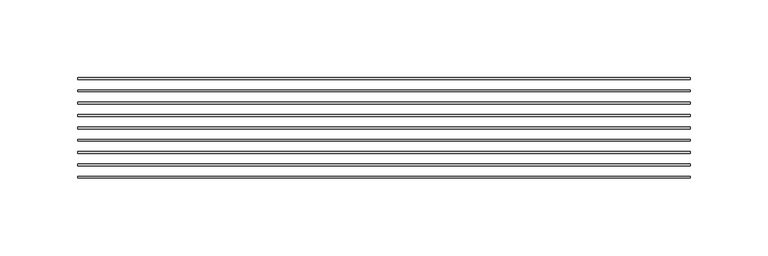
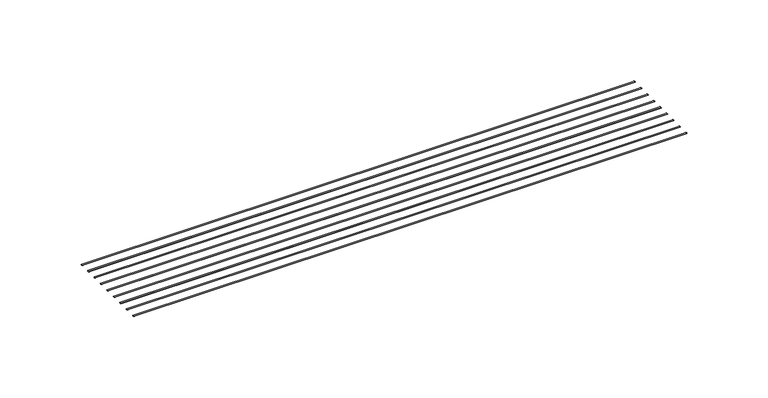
"""IFC4 building model written with IfcOpenShell, lengths in millimetres: proxy geometry, CRAi Generic Model Mesh Piece Face Based : CRAi Generic Model Mesh Piece Face Based."""

from ifc_helpers import new_model, si_unit, point, frame, origin, place, context, project, spatial, ellipse_curve, trimmed, source, transform, mapped, element, save
from ifc_brep_helpers import plane_surface, extruded_surface, advanced_brep


def generic_models_ae2a9f48(model_context):
    return source(origin(), model_context, "Body", "AdvancedBrep", [
        advanced_brep(
        [(-196.85, 87.4480485, -2.9765625), (-196.85, 88.6386735, -2.9765625), (196.85, 87.4480485, -2.9765625), (196.85, 88.6386735, -2.9765625)],
        [
            (0, 1, ellipse_curve(frame((-196.85, 88.043361, -2.9765625), z_axis=(-1.0, 0.0, 0.0), x_axis=(0.0, 1.0, 0.0)), 0.5953125, 0.1984375)),
            (1, 0, ellipse_curve(frame((-196.85, 88.043361, -2.9765625), z_axis=(-1.0, 0.0, 0.0), x_axis=(0.0, 1.0, 0.0)), 0.5953125, 0.1984375)),
            (2, 3, ellipse_curve(frame((196.85, 88.043361, -2.9765625), z_axis=(1.0, 0.0, 0.0), x_axis=(0.0, 1.0, 0.0)), 0.5953125, 0.1984375)),
            (3, 2, ellipse_curve(frame((196.85, 88.043361, -2.9765625), z_axis=(1.0, 0.0, 0.0), x_axis=(0.0, 1.0, 0.0)), 0.5953125, 0.1984375)),
            (1, 3),
            (2, 0),
        ],
        [
            plane_surface(frame((-196.85, 88.043361, -2.9765625), z_axis=(-1.0, 0.0, 0.0), x_axis=(0.0, 0.0, 1.0))),
            plane_surface(frame((196.85, 88.043361, -2.9765625), z_axis=(1.0, 0.0, 0.0), x_axis=(0.0, 0.0, 1.0))),
            extruded_surface(trimmed(ellipse_curve(frame((-196.85, 88.043361, -2.9765625), z_axis=(1.0, 0.0, 0.0), x_axis=(0.0, 1.0, 0.0)), 0.5953125, 0.1984375), [point((-196.85, 87.4480485, -2.9765625))], [point((-196.85, 88.6386735, -2.9765625))], True, "CARTESIAN"), (393.7, 0.0, 0.0), 393.7),
            extruded_surface(trimmed(ellipse_curve(frame((-196.85, 88.043361, -2.9765625), z_axis=(1.0, 0.0, 0.0), x_axis=(0.0, 1.0, 0.0)), 0.5953125, 0.1984375), [point((-196.85, 88.6386735, -2.9765625))], [point((-196.85, 87.4480485, -2.9765625))], True, "CARTESIAN"), (393.7, 0.0, 0.0), 393.7),
        ],
        [
            (0, [[1, 2]]),
            (1, [[3, 4]]),
            (2, [[5, -3, 6, -2]]),
            (3, [[-6, -4, -5, -1]]),
        ],
    ),
        advanced_brep(
        [(-196.85, 95.3855485, -2.9765625), (-196.85, 96.5761735, -2.9765625), (196.85, 95.3855485, -2.9765625), (196.85, 96.5761735, -2.9765625)],
        [
            (0, 1, ellipse_curve(frame((-196.85, 95.980861, -2.9765625), z_axis=(-1.0, 0.0, 0.0), x_axis=(0.0, 1.0, 0.0)), 0.5953125, 0.1984375)),
            (1, 0, ellipse_curve(frame((-196.85, 95.980861, -2.9765625), z_axis=(-1.0, 0.0, 0.0), x_axis=(0.0, 1.0, 0.0)), 0.5953125, 0.1984375)),
            (2, 3, ellipse_curve(frame((196.85, 95.980861, -2.9765625), z_axis=(1.0, 0.0, 0.0), x_axis=(0.0, 1.0, 0.0)), 0.5953125, 0.1984375)),
            (3, 2, ellipse_curve(frame((196.85, 95.980861, -2.9765625), z_axis=(1.0, 0.0, 0.0), x_axis=(0.0, 1.0, 0.0)), 0.5953125, 0.1984375)),
            (1, 3),
            (2, 0),
        ],
        [
            plane_surface(frame((-196.85, 95.980861, -2.9765625), z_axis=(-1.0, 0.0, 0.0), x_axis=(0.0, 0.0, 1.0))),
            plane_surface(frame((196.85, 95.980861, -2.9765625), z_axis=(1.0, 0.0, 0.0), x_axis=(0.0, 0.0, 1.0))),
            extruded_surface(trimmed(ellipse_curve(frame((-196.85, 95.980861, -2.9765625), z_axis=(1.0, 0.0, 0.0), x_axis=(0.0, 1.0, 0.0)), 0.5953125, 0.1984375), [point((-196.85, 95.3855485, -2.9765625))], [point((-196.85, 96.5761735, -2.9765625))], True, "CARTESIAN"), (393.7, 0.0, 0.0), 393.7),
            extruded_surface(trimmed(ellipse_curve(frame((-196.85, 95.980861, -2.9765625), z_axis=(1.0, 0.0, 0.0), x_axis=(0.0, 1.0, 0.0)), 0.5953125, 0.1984375), [point((-196.85, 96.5761735, -2.9765625))], [point((-196.85, 95.3855485, -2.9765625))], True, "CARTESIAN"), (393.7, 0.0, 0.0), 393.7),
        ],
        [
            (0, [[1, 2]]),
            (1, [[3, 4]]),
            (2, [[5, -3, 6, -2]]),
            (3, [[-6, -4, -5, -1]]),
        ],
    ),
        advanced_brep(
        [(-196.85, 103.3230485, -2.9765625), (-196.85, 104.5136735, -2.9765625), (196.85, 103.3230485, -2.9765625), (196.85, 104.5136735, -2.9765625)],
        [
            (0, 1, ellipse_curve(frame((-196.85, 103.918361, -2.9765625), z_axis=(-1.0, 0.0, 0.0), x_axis=(0.0, 1.0, 0.0)), 0.5953125, 0.1984375)),
            (1, 0, ellipse_curve(frame((-196.85, 103.918361, -2.9765625), z_axis=(-1.0, 0.0, 0.0), x_axis=(0.0, 1.0, 0.0)), 0.5953125, 0.1984375)),
            (2, 3, ellipse_curve(frame((196.85, 103.918361, -2.9765625), z_axis=(1.0, 0.0, 0.0), x_axis=(0.0, 1.0, 0.0)), 0.5953125, 0.1984375)),
            (3, 2, ellipse_curve(frame((196.85, 103.918361, -2.9765625), z_axis=(1.0, 0.0, 0.0), x_axis=(0.0, 1.0, 0.0)), 0.5953125, 0.1984375)),
            (1, 3),
            (2, 0),
        ],
        [
            plane_surface(frame((-196.85, 103.918361, -2.9765625), z_axis=(-1.0, 0.0, 0.0), x_axis=(0.0, 0.0, 1.0))),
            plane_surface(frame((196.85, 103.918361, -2.9765625), z_axis=(1.0, 0.0, 0.0), x_axis=(0.0, 0.0, 1.0))),
            extruded_surface(trimmed(ellipse_curve(frame((-196.85, 103.918361, -2.9765625), z_axis=(1.0, 0.0, 0.0), x_axis=(0.0, 1.0, 0.0)), 0.5953125, 0.1984375), [point((-196.85, 103.3230485, -2.9765625))], [point((-196.85, 104.5136735, -2.9765625))], True, "CARTESIAN"), (393.7, 0.0, 0.0), 393.7),
            extruded_surface(trimmed(ellipse_curve(frame((-196.85, 103.918361, -2.9765625), z_axis=(1.0, 0.0, 0.0), x_axis=(0.0, 1.0, 0.0)), 0.5953125, 0.1984375), [point((-196.85, 104.5136735, -2.9765625))], [point((-196.85, 103.3230485, -2.9765625))], True, "CARTESIAN"), (393.7, 0.0, 0.0), 393.7),
        ],
        [
            (0, [[1, 2]]),
            (1, [[3, 4]]),
            (2, [[5, -3, 6, -2]]),
            (3, [[-6, -4, -5, -1]]),
        ],
    ),
        advanced_brep(
        [(-196.85, 111.2605485, -2.9765625), (-196.85, 112.4511735, -2.9765625), (196.85, 111.2605485, -2.9765625), (196.85, 112.4511735, -2.9765625)],
        [
            (0, 1, ellipse_curve(frame((-196.85, 111.855861, -2.9765625), z_axis=(-1.0, 0.0, 0.0), x_axis=(0.0, 1.0, 0.0)), 0.5953125, 0.1984375)),
            (1, 0, ellipse_curve(frame((-196.85, 111.855861, -2.9765625), z_axis=(-1.0, 0.0, 0.0), x_axis=(0.0, 1.0, 0.0)), 0.5953125, 0.1984375)),
            (2, 3, ellipse_curve(frame((196.85, 111.855861, -2.9765625), z_axis=(1.0, 0.0, 0.0), x_axis=(0.0, 1.0, 0.0)), 0.5953125, 0.1984375)),
            (3, 2, ellipse_curve(frame((196.85, 111.855861, -2.9765625), z_axis=(1.0, 0.0, 0.0), x_axis=(0.0, 1.0, 0.0)), 0.5953125, 0.1984375)),
            (1, 3),
            (2, 0),
        ],
        [
            plane_surface(frame((-196.85, 111.855861, -2.9765625), z_axis=(-1.0, 0.0, 0.0), x_axis=(0.0, 0.0, 1.0))),
            plane_surface(frame((196.85, 111.855861, -2.9765625), z_axis=(1.0, 0.0, 0.0), x_axis=(0.0, 0.0, 1.0))),
            extruded_surface(trimmed(ellipse_curve(frame((-196.85, 111.855861, -2.9765625), z_axis=(1.0, 0.0, 0.0), x_axis=(0.0, 1.0, 0.0)), 0.5953125, 0.1984375), [point((-196.85, 111.2605485, -2.9765625))], [point((-196.85, 112.4511735, -2.9765625))], True, "CARTESIAN"), (393.7, 0.0, 0.0), 393.7),
            extruded_surface(trimmed(ellipse_curve(frame((-196.85, 111.855861, -2.9765625), z_axis=(1.0, 0.0, 0.0), x_axis=(0.0, 1.0, 0.0)), 0.5953125, 0.1984375), [point((-196.85, 112.4511735, -2.9765625))], [point((-196.85, 111.2605485, -2.9765625))], True, "CARTESIAN"), (393.7, 0.0, 0.0), 393.7),
        ],
        [
            (0, [[1, 2]]),
            (1, [[3, 4]]),
            (2, [[5, -3, 6, -2]]),
            (3, [[-6, -4, -5, -1]]),
        ],
    ),
        advanced_brep(
        [(-196.85, 119.1980485, -2.9765625), (-196.85, 120.3886735, -2.9765625), (196.85, 119.1980485, -2.9765625), (196.85, 120.3886735, -2.9765625)],
        [
            (0, 1, ellipse_curve(frame((-196.85, 119.793361, -2.9765625), z_axis=(-1.0, 0.0, 0.0), x_axis=(0.0, 1.0, 0.0)), 0.5953125, 0.1984375)),
            (1, 0, ellipse_curve(frame((-196.85, 119.793361, -2.9765625), z_axis=(-1.0, 0.0, 0.0), x_axis=(0.0, 1.0, 0.0)), 0.5953125, 0.1984375)),
            (2, 3, ellipse_curve(frame((196.85, 119.793361, -2.9765625), z_axis=(1.0, 0.0, 0.0), x_axis=(0.0, 1.0, 0.0)), 0.5953125, 0.1984375)),
            (3, 2, ellipse_curve(frame((196.85, 119.793361, -2.9765625), z_axis=(1.0, 0.0, 0.0), x_axis=(0.0, 1.0, 0.0)), 0.5953125, 0.1984375)),
            (1, 3),
            (2, 0),
        ],
        [
            plane_surface(frame((-196.85, 119.793361, -2.9765625), z_axis=(-1.0, 0.0, 0.0), x_axis=(0.0, 0.0, 1.0))),
            plane_surface(frame((196.85, 119.793361, -2.9765625), z_axis=(1.0, 0.0, 0.0), x_axis=(0.0, 0.0, 1.0))),
            extruded_surface(trimmed(ellipse_curve(frame((-196.85, 119.793361, -2.9765625), z_axis=(1.0, 0.0, 0.0), x_axis=(0.0, 1.0, 0.0)), 0.5953125, 0.1984375), [point((-196.85, 119.1980485, -2.9765625))], [point((-196.85, 120.3886735, -2.9765625))], True, "CARTESIAN"), (393.7, 0.0, 0.0), 393.7),
            extruded_surface(trimmed(ellipse_curve(frame((-196.85, 119.793361, -2.9765625), z_axis=(1.0, 0.0, 0.0), x_axis=(0.0, 1.0, 0.0)), 0.5953125, 0.1984375), [point((-196.85, 120.3886735, -2.9765625))], [point((-196.85, 119.1980485, -2.9765625))], True, "CARTESIAN"), (393.7, 0.0, 0.0), 393.7),
        ],
        [
            (0, [[1, 2]]),
            (1, [[3, 4]]),
            (2, [[5, -3, 6, -2]]),
            (3, [[-6, -4, -5, -1]]),
        ],
    ),
        advanced_brep(
        [(-196.85, 127.1355485, -2.9765625), (-196.85, 128.3261735, -2.9765625), (196.85, 127.1355485, -2.9765625), (196.85, 128.3261735, -2.9765625)],
        [
            (0, 1, ellipse_curve(frame((-196.85, 127.730861, -2.9765625), z_axis=(-1.0, 0.0, 0.0), x_axis=(0.0, 1.0, 0.0)), 0.5953125, 0.1984375)),
            (1, 0, ellipse_curve(frame((-196.85, 127.730861, -2.9765625), z_axis=(-1.0, 0.0, 0.0), x_axis=(0.0, 1.0, 0.0)), 0.5953125, 0.1984375)),
            (2, 3, ellipse_curve(frame((196.85, 127.730861, -2.9765625), z_axis=(1.0, 0.0, 0.0), x_axis=(0.0, 1.0, 0.0)), 0.5953125, 0.1984375)),
            (3, 2, ellipse_curve(frame((196.85, 127.730861, -2.9765625), z_axis=(1.0, 0.0, 0.0), x_axis=(0.0, 1.0, 0.0)), 0.5953125, 0.1984375)),
            (1, 3),
            (2, 0),
        ],
        [
            plane_surface(frame((-196.85, 127.730861, -2.9765625), z_axis=(-1.0, 0.0, 0.0), x_axis=(0.0, 0.0, 1.0))),
            plane_surface(frame((196.85, 127.730861, -2.9765625), z_axis=(1.0, 0.0, 0.0), x_axis=(0.0, 0.0, 1.0))),
            extruded_surface(trimmed(ellipse_curve(frame((-196.85, 127.730861, -2.9765625), z_axis=(1.0, 0.0, 0.0), x_axis=(0.0, 1.0, 0.0)), 0.5953125, 0.1984375), [point((-196.85, 127.1355485, -2.9765625))], [point((-196.85, 128.3261735, -2.9765625))], True, "CARTESIAN"), (393.7, 0.0, 0.0), 393.7),
            extruded_surface(trimmed(ellipse_curve(frame((-196.85, 127.730861, -2.9765625), z_axis=(1.0, 0.0, 0.0), x_axis=(0.0, 1.0, 0.0)), 0.5953125, 0.1984375), [point((-196.85, 128.3261735, -2.9765625))], [point((-196.85, 127.1355485, -2.9765625))], True, "CARTESIAN"), (393.7, 0.0, 0.0), 393.7),
        ],
        [
            (0, [[1, 2]]),
            (1, [[3, 4]]),
            (2, [[5, -3, 6, -2]]),
            (3, [[-6, -4, -5, -1]]),
        ],
    ),
        advanced_brep(
        [(-196.85, 135.0730485, -2.9765625), (-196.85, 136.2636735, -2.9765625), (196.85, 135.0730485, -2.9765625), (196.85, 136.2636735, -2.9765625)],
        [
            (0, 1, ellipse_curve(frame((-196.85, 135.668361, -2.9765625), z_axis=(-1.0, 0.0, 0.0), x_axis=(0.0, 1.0, 0.0)), 0.5953125, 0.1984375)),
            (1, 0, ellipse_curve(frame((-196.85, 135.668361, -2.9765625), z_axis=(-1.0, 0.0, 0.0), x_axis=(0.0, 1.0, 0.0)), 0.5953125, 0.1984375)),
            (2, 3, ellipse_curve(frame((196.85, 135.668361, -2.9765625), z_axis=(1.0, 0.0, 0.0), x_axis=(0.0, 1.0, 0.0)), 0.5953125, 0.1984375)),
            (3, 2, ellipse_curve(frame((196.85, 135.668361, -2.9765625), z_axis=(1.0, 0.0, 0.0), x_axis=(0.0, 1.0, 0.0)), 0.5953125, 0.1984375)),
            (1, 3),
            (2, 0),
        ],
        [
            plane_surface(frame((-196.85, 135.668361, -2.9765625), z_axis=(-1.0, 0.0, 0.0), x_axis=(0.0, 0.0, 1.0))),
            plane_surface(frame((196.85, 135.668361, -2.9765625), z_axis=(1.0, 0.0, 0.0), x_axis=(0.0, 0.0, 1.0))),
            extruded_surface(trimmed(ellipse_curve(frame((-196.85, 135.668361, -2.9765625), z_axis=(1.0, 0.0, 0.0), x_axis=(0.0, 1.0, 0.0)), 0.5953125, 0.1984375), [point((-196.85, 135.0730485, -2.9765625))], [point((-196.85, 136.2636735, -2.9765625))], True, "CARTESIAN"), (393.7, 0.0, 0.0), 393.7),
            extruded_surface(trimmed(ellipse_curve(frame((-196.85, 135.668361, -2.9765625), z_axis=(1.0, 0.0, 0.0), x_axis=(0.0, 1.0, 0.0)), 0.5953125, 0.1984375), [point((-196.85, 136.2636735, -2.9765625))], [point((-196.85, 135.0730485, -2.9765625))], True, "CARTESIAN"), (393.7, 0.0, 0.0), 393.7),
        ],
        [
            (0, [[1, 2]]),
            (1, [[3, 4]]),
            (2, [[5, -3, 6, -2]]),
            (3, [[-6, -4, -5, -1]]),
        ],
    ),
        advanced_brep(
        [(-196.85, 143.0105485, -2.9765625), (-196.85, 144.2011735, -2.9765625), (196.85, 143.0105485, -2.9765625), (196.85, 144.2011735, -2.9765625)],
        [
            (0, 1, ellipse_curve(frame((-196.85, 143.605861, -2.9765625), z_axis=(-1.0, 0.0, 0.0), x_axis=(0.0, 1.0, 0.0)), 0.5953125, 0.1984375)),
            (1, 0, ellipse_curve(frame((-196.85, 143.605861, -2.9765625), z_axis=(-1.0, 0.0, 0.0), x_axis=(0.0, 1.0, 0.0)), 0.5953125, 0.1984375)),
            (2, 3, ellipse_curve(frame((196.85, 143.605861, -2.9765625), z_axis=(1.0, 0.0, 0.0), x_axis=(0.0, 1.0, 0.0)), 0.5953125, 0.1984375)),
            (3, 2, ellipse_curve(frame((196.85, 143.605861, -2.9765625), z_axis=(1.0, 0.0, 0.0), x_axis=(0.0, 1.0, 0.0)), 0.5953125, 0.1984375)),
            (1, 3),
            (2, 0),
        ],
        [
            plane_surface(frame((-196.85, 143.605861, -2.9765625), z_axis=(-1.0, 0.0, 0.0), x_axis=(0.0, 0.0, 1.0))),
            plane_surface(frame((196.85, 143.605861, -2.9765625), z_axis=(1.0, 0.0, 0.0), x_axis=(0.0, 0.0, 1.0))),
            extruded_surface(trimmed(ellipse_curve(frame((-196.85, 143.605861, -2.9765625), z_axis=(1.0, 0.0, 0.0), x_axis=(0.0, 1.0, 0.0)), 0.5953125, 0.1984375), [point((-196.85, 143.0105485, -2.9765625))], [point((-196.85, 144.2011735, -2.9765625))], True, "CARTESIAN"), (393.7, 0.0, 0.0), 393.7),
            extruded_surface(trimmed(ellipse_curve(frame((-196.85, 143.605861, -2.9765625), z_axis=(1.0, 0.0, 0.0), x_axis=(0.0, 1.0, 0.0)), 0.5953125, 0.1984375), [point((-196.85, 144.2011735, -2.9765625))], [point((-196.85, 143.0105485, -2.9765625))], True, "CARTESIAN"), (393.7, 0.0, 0.0), 393.7),
        ],
        [
            (0, [[1, 2]]),
            (1, [[3, 4]]),
            (2, [[5, -3, 6, -2]]),
            (3, [[-6, -4, -5, -1]]),
        ],
    ),
        advanced_brep(
        [(-196.85, 150.9480485, -2.9765625), (-196.85, 152.1386735, -2.9765625), (196.85, 150.9480485, -2.9765625), (196.85, 152.1386735, -2.9765625)],
        [
            (0, 1, ellipse_curve(frame((-196.85, 151.543361, -2.9765625), z_axis=(-1.0, 0.0, 0.0), x_axis=(0.0, 1.0, 0.0)), 0.5953125, 0.1984375)),
            (1, 0, ellipse_curve(frame((-196.85, 151.543361, -2.9765625), z_axis=(-1.0, 0.0, 0.0), x_axis=(0.0, 1.0, 0.0)), 0.5953125, 0.1984375)),
            (2, 3, ellipse_curve(frame((196.85, 151.543361, -2.9765625), z_axis=(1.0, 0.0, 0.0), x_axis=(0.0, 1.0, 0.0)), 0.5953125, 0.1984375)),
            (3, 2, ellipse_curve(frame((196.85, 151.543361, -2.9765625), z_axis=(1.0, 0.0, 0.0), x_axis=(0.0, 1.0, 0.0)), 0.5953125, 0.1984375)),
            (1, 3),
            (2, 0),
        ],
        [
            plane_surface(frame((-196.85, 151.543361, -2.9765625), z_axis=(-1.0, 0.0, 0.0), x_axis=(0.0, 0.0, 1.0))),
            plane_surface(frame((196.85, 151.543361, -2.9765625), z_axis=(1.0, 0.0, 0.0), x_axis=(0.0, 0.0, 1.0))),
            extruded_surface(trimmed(ellipse_curve(frame((-196.85, 151.543361, -2.9765625), z_axis=(1.0, 0.0, 0.0), x_axis=(0.0, 1.0, 0.0)), 0.5953125, 0.1984375), [point((-196.85, 150.9480485, -2.9765625))], [point((-196.85, 152.1386735, -2.9765625))], True, "CARTESIAN"), (393.7, 0.0, 0.0), 393.7),
            extruded_surface(trimmed(ellipse_curve(frame((-196.85, 151.543361, -2.9765625), z_axis=(1.0, 0.0, 0.0), x_axis=(0.0, 1.0, 0.0)), 0.5953125, 0.1984375), [point((-196.85, 152.1386735, -2.9765625))], [point((-196.85, 150.9480485, -2.9765625))], True, "CARTESIAN"), (393.7, 0.0, 0.0), 393.7),
        ],
        [
            (0, [[1, 2]]),
            (1, [[3, 4]]),
            (2, [[5, -3, 6, -2]]),
            (3, [[-6, -4, -5, -1]]),
        ],
    ),
    ])


if __name__ == "__main__":
    model = new_model("IFC4")
    model_context = context("Model", 3, world=origin())
    ifc_project = project(units=[si_unit("LENGTHUNIT", "METRE", prefix="MILLI")], contexts=[model_context])
    site = spatial("IfcSite", under=ifc_project)
    building = spatial("IfcBuilding", under=site)
    placement = place(None, origin())
    generic_models_shape = generic_models_ae2a9f48(model_context)
    element("IfcBuildingElementProxy", 1, Name="CRAi Generic Model Mesh Piece Face Based : CRAi Generic Model Mesh Piece Face Based", ObjectType="CRAi Generic Model Mesh Piece Face Based : CRAi Generic Model Mesh Piece Face Based", at=placement, inside=building, context=model_context, shape_type="MappedRepresentation", body=[
        mapped(generic_models_shape, transform((0.0, 0.0, 0.0), x_axis=(1.0, 0.0, 0.0), y_axis=(0.0, 1.0, 0.0), z_axis=(0.0, 0.0, 1.0))),
    ])
    save(model, "model.ifc")
